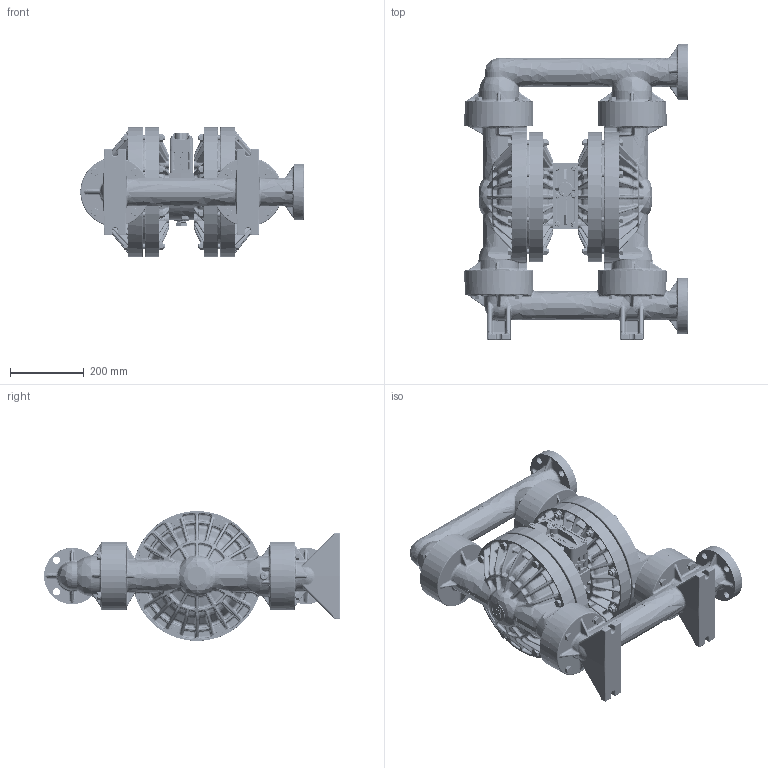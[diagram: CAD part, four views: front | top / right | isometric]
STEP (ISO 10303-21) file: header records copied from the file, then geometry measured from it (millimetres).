
FILE_DESCRIPTION (( 'STEP AP203' ), '1' );
FILE_NAME ('p800_poly.STEP', '2022-07-05T07:31:34', ( '' ), ( '' ), 'SwSTEP 2.0', 'SolidWorks 2019', '' );
FILE_SCHEMA (( 'CONFIG_CONTROL_DESIGN' ));
Products named in the file (1): p800_poly
Bounding box: 604.51 x 800.61 x 353.06 mm (x, y, z)
Surface area: 2341217.2 mm2 (no closed solid volume)
Topology: 0 solids, 1 shells, 12109 faces, 28672 edges, 16465 vertices
Faces by surface type: bspline 11999, plane 86, cylinder 24
Entity records: 843983 total; most frequent: CARTESIAN_POINT 632111, ORIENTED_EDGE 56590, EDGE_CURVE 28295, DIRECTION 26096, VERTEX_POINT 16465, EDGE_LOOP 12458, ADVANCED_FACE 12111, FACE_OUTER_BOUND 12109
